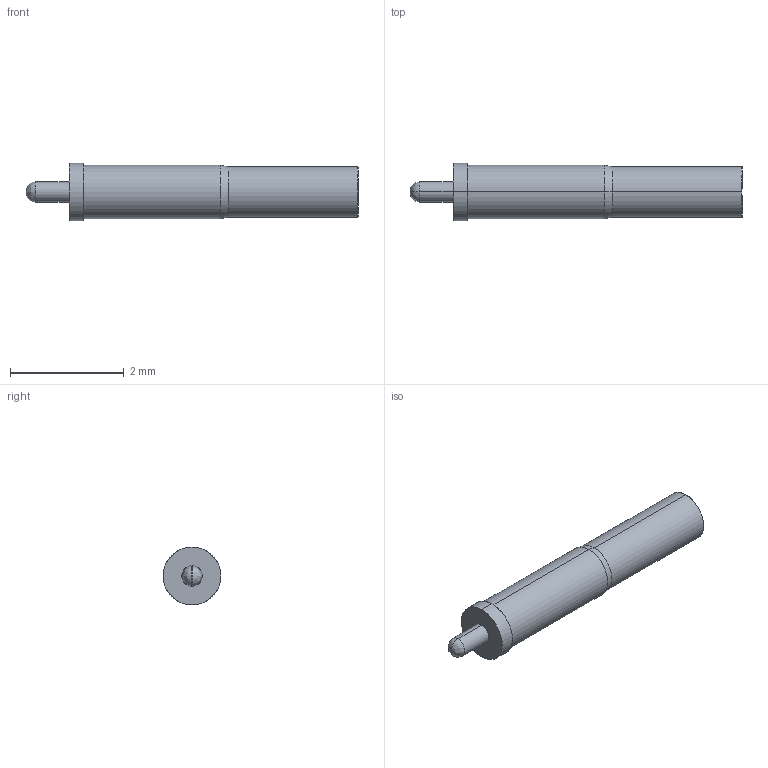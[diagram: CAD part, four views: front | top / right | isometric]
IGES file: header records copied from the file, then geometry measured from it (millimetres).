
Start section: SolidWorks IGES file using analytic representation for surfaces
Global section: file name: O:\PYLON\IGES FILES\A-S\A-S-R.IGS; native system: SolidWorks 2015; preprocessor: SolidWorks 2015; author: kgolden; date: 171023.150906; units: inch
Bounding box: 5.84 x 1.02 x 1.02 mm (x, y, z)
Surface area: 19.3 mm2 (no closed solid volume)
Topology: 0 solids, 0 shells, 19 faces, 176 edges, 176 vertices
Faces by surface type: revolution 12, bspline 7
